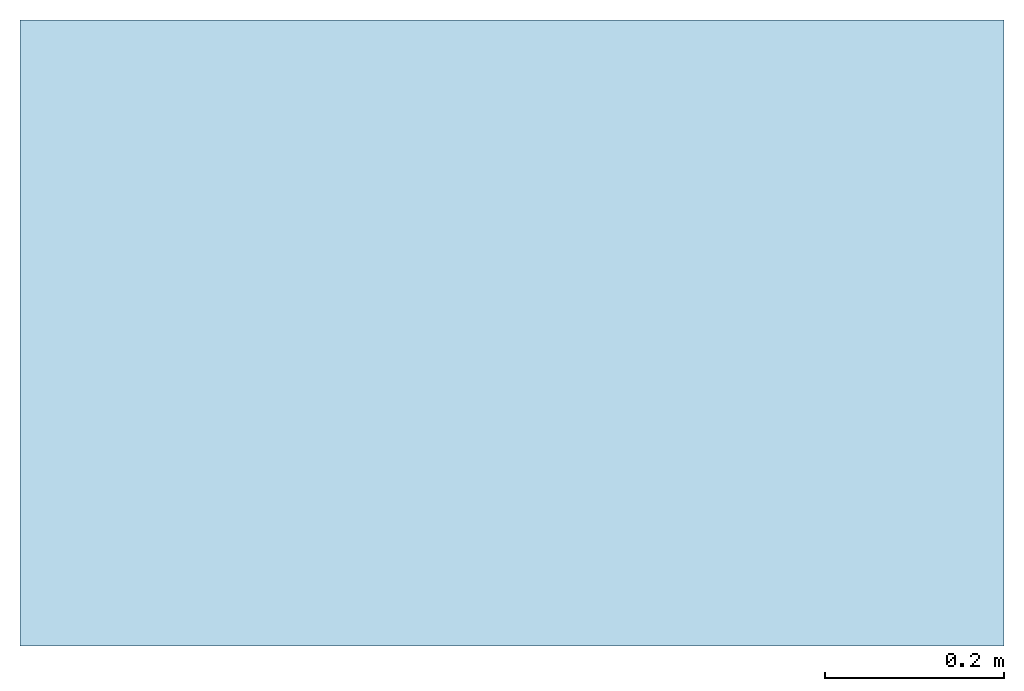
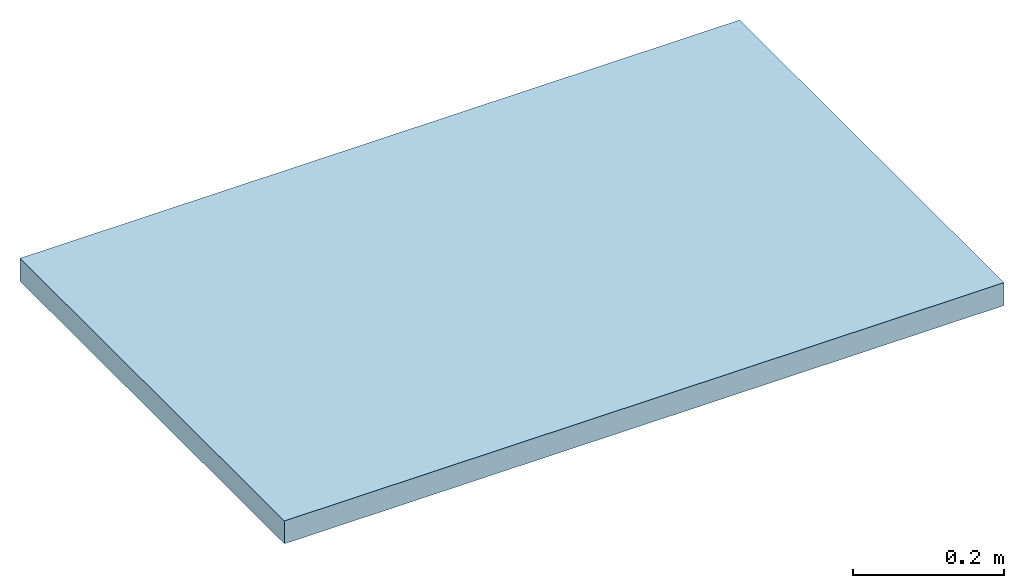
# One storey: 1 slab.
"""IFC2X3 building model written with IfcOpenShell, lengths in millimetres."""

from ifc_helpers import new_model, entity, si_unit, converted_unit, derived_unit, direction, frame, frame_2d, origin, place, context, subcontext, project, spatial, rectangle, extrude, material, layer, layer_set, layer_usage, element, save


model = new_model("IFC2X3")

# Units and contexts
model_context = context("Model", 3, precision=0.01, world=origin(), true_north=direction((6.12303176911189e-17, 1.0)))
context_of_model = context(None, 3, precision=0.01, world=origin(), true_north=direction((6.12303176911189e-17, 1.0)))
body_context = subcontext(model_context, "Body", "Model", "MODEL_VIEW")
ifc_project = project(units=[si_unit("LENGTHUNIT", "METRE", prefix="MILLI"), si_unit("AREAUNIT", "SQUARE_METRE"), si_unit("VOLUMEUNIT", "CUBIC_METRE"), converted_unit("PLANEANGLEUNIT", "DEGREE", entity("IfcRatioMeasure", 0.0174532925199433), si_unit("PLANEANGLEUNIT", "RADIAN"), dimensions=[0, 0, 0, 0, 0, 0, 0]), si_unit("MASSUNIT", "GRAM", prefix="KILO"), si_unit("TIMEUNIT", "SECOND"), si_unit("FREQUENCYUNIT", "HERTZ"), si_unit("THERMODYNAMICTEMPERATUREUNIT", "DEGREE_CELSIUS"), derived_unit("THERMALTRANSMITTANCEUNIT", [(si_unit("MASSUNIT", "GRAM", prefix="KILO"), 1), (si_unit("THERMODYNAMICTEMPERATUREUNIT", "KELVIN"), -1), (si_unit("TIMEUNIT", "SECOND"), -3)]), derived_unit("VOLUMETRICFLOWRATEUNIT", [(si_unit("LENGTHUNIT", "METRE"), 3), (si_unit("TIMEUNIT", "SECOND"), -1)]), si_unit("ELECTRICCURRENTUNIT", "AMPERE"), si_unit("ELECTRICVOLTAGEUNIT", "VOLT"), si_unit("POWERUNIT", "WATT"), si_unit("FORCEUNIT", "NEWTON", prefix="KILO"), si_unit("ILLUMINANCEUNIT", "LUX"), si_unit("LUMINOUSFLUXUNIT", "LUMEN"), si_unit("LUMINOUSINTENSITYUNIT", "CANDELA"), si_unit("PRESSUREUNIT", "PASCAL")], contexts=[model_context, context_of_model])

# Site, building, storey
site_placement = place(None, origin())
site = spatial("IfcSite", under=ifc_project, at=site_placement, Name="Default", CompositionType="ELEMENT")
building_placement = place(site_placement, origin())
building = spatial("IfcBuilding", under=site, at=building_placement, CompositionType="ELEMENT")
storey_placement = place(building_placement, origin())
storey = spatial("IfcBuildingStorey", under=building, at=storey_placement, Name="Уровень 1", CompositionType="ELEMENT", Elevation=0.0)

# Slab
ifc_material = material(Name="ROLS_ISOMARKET_Плита ENERGOFLOOR PIPELOCK 20/0,7-1,1 DES-sg")
ifc_layer = layer(ifc_material, 37.0)
ifc_layer_set = layer_set([ifc_layer], Name="Перекрытие:ROLS_ISOMARKET_Плита ENERGOFLOOR PIPELOCK 20/0,7-1,1 DES-sg")
ifc_layer_usage = layer_usage(ifc_layer_set, "AXIS3", "POSITIVE", 0.0)
slab_placement = place(storey_placement, origin())
element("IfcSlab", 1, at=slab_placement, inside=storey, material=ifc_layer_usage, Name="Перекрытие:ROLS_ISOMARKET_Плита ENERGOFLOOR PIPELOCK 20/0,7-1,1 DES-sg", ObjectType="Перекрытие:ROLS_ISOMARKET_Плита ENERGOFLOOR PIPELOCK 20/0,7-1,1 DES-sg", PredefinedType="FLOOR", context=body_context, shape_type="SweptSolid", body=[
    extrude(rectangle(XDim=699.999999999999, YDim=1100.0, at=frame_2d((1.10844666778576e-12, 1.08002495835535e-12), x_axis=(1.0, 0.0))), frame((-14465.4270794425, 11452.1606263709, 0.0), z_axis=(0.0, 0.0, -1.0), x_axis=(0.0, 1.0, 0.0)), (0.0, 0.0, 1.0), 37.0),
])

save(model, "model.ifc")
